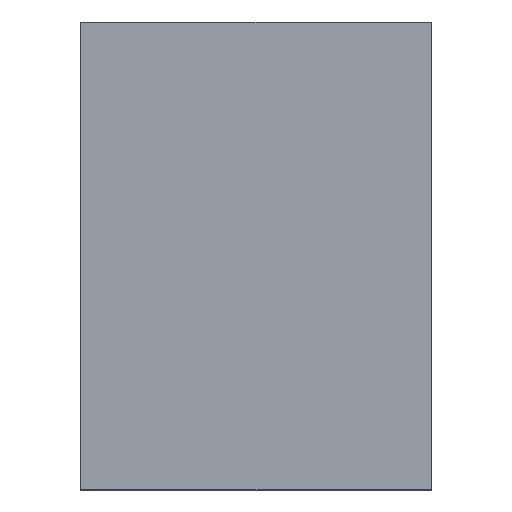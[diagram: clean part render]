
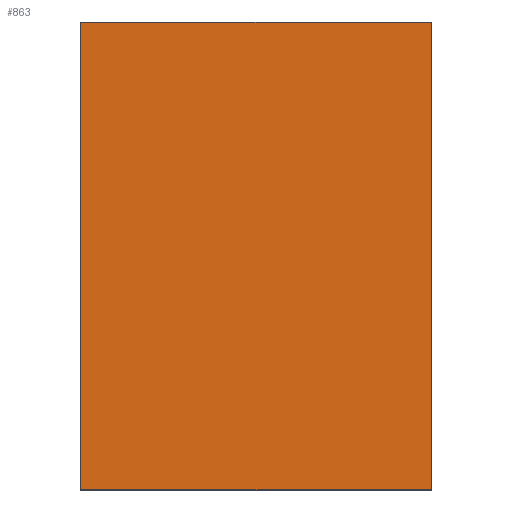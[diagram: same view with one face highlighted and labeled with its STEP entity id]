
A CAD part, top view. The second image highlights one B-rep face of the part: STEP entity #863.
In plain terms, the highlighted planar face has unit normal (0, 0, 1).
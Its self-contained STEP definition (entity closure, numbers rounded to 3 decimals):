
#26=FACE_OUTER_BOUND('',#80,.T.);
#80=EDGE_LOOP('',(#542,#543,#544,#545));
#132=LINE('',#1224,#240);
#136=LINE('',#1231,#244);
#139=LINE('',#1237,#247);
#141=LINE('',#1240,#249);
#240=VECTOR('',#1004,1000.);
#244=VECTOR('',#1010,1000.);
#247=VECTOR('',#1015,1000.);
#249=VECTOR('',#1019,1000.);
#348=VERTEX_POINT('',#1221);
#349=VERTEX_POINT('',#1223);
#351=VERTEX_POINT('',#1229);
#353=VERTEX_POINT('',#1235);
#420=EDGE_CURVE('',#349,#348,#132,.T.);
#424=EDGE_CURVE('',#348,#351,#136,.T.);
#427=EDGE_CURVE('',#351,#353,#139,.T.);
#429=EDGE_CURVE('',#353,#349,#141,.T.);
#542=ORIENTED_EDGE('',*,*,#420,.T.);
#543=ORIENTED_EDGE('',*,*,#424,.T.);
#544=ORIENTED_EDGE('',*,*,#427,.T.);
#545=ORIENTED_EDGE('',*,*,#429,.T.);
#746=PLANE('',#948);
#863=ADVANCED_FACE('',(#26),#746,.T.);
#948=AXIS2_PLACEMENT_3D('',#1241,#1020,#1021);
#1004=DIRECTION('',(0.,1.,0.));
#1010=DIRECTION('',(-1.,0.,0.));
#1015=DIRECTION('',(0.,-1.,0.));
#1019=DIRECTION('',(1.,0.,0.));
#1020=DIRECTION('center_axis',(0.,0.,1.));
#1021=DIRECTION('ref_axis',(1.,0.,0.));
#1221=CARTESIAN_POINT('',(1.5,2.,0.3));
#1223=CARTESIAN_POINT('',(1.5,-2.,0.3));
#1224=CARTESIAN_POINT('',(1.5,2.,0.3));
#1229=CARTESIAN_POINT('',(-1.5,2.,0.3));
#1231=CARTESIAN_POINT('',(-1.5,2.,0.3));
#1235=CARTESIAN_POINT('',(-1.5,-2.,0.3));
#1237=CARTESIAN_POINT('',(-1.5,2.,0.3));
#1240=CARTESIAN_POINT('',(-1.5,-2.,0.3));
#1241=CARTESIAN_POINT('Origin',(0.,0.,0.3));
